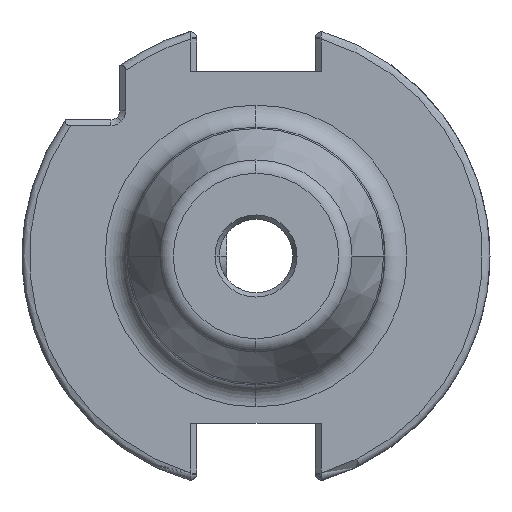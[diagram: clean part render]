
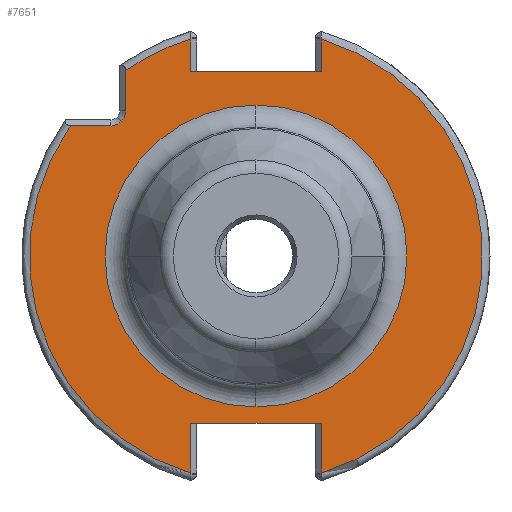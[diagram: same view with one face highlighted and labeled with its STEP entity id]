
A CAD part, front view. The second image highlights one B-rep face of the part: STEP entity #7651.
In plain terms, the highlighted planar face has unit normal (0, -1, 0).
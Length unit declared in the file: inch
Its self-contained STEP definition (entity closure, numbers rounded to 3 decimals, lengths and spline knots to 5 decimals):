
#87 = ORIENTED_EDGE ( 'NONE', *, *, #5678, .F. ) ;
#239 = ORIENTED_EDGE ( 'NONE', *, *, #2997, .F. ) ;
#252 = LINE ( 'NONE', #7582, #3780 ) ;
#269 = DIRECTION ( 'NONE',  ( 1., 0., 0. ) ) ;
#455 = CARTESIAN_POINT ( 'NONE',  ( 0.34843, -0.75197, -0.44685 ) ) ;
#734 = LINE ( 'NONE', #1566, #873 ) ;
#873 = VECTOR ( 'NONE', #3928, 39.37008 ) ;
#1041 = ORIENTED_EDGE ( 'NONE', *, *, #5106, .F. ) ;
#1070 = CARTESIAN_POINT ( 'NONE',  ( -0.77559, -0.75197, 0.69685 ) ) ;
#1078 = DIRECTION ( 'NONE',  ( 0.707, 0., -0.707 ) ) ;
#1155 = CARTESIAN_POINT ( 'NONE',  ( -0.71991, -0.75197, 0.71991 ) ) ;
#1173 = VERTEX_POINT ( 'NONE', #1241 ) ;
#1241 = CARTESIAN_POINT ( 'NONE',  ( 0.34843, -0.75197, 0.98425 ) ) ;
#1319 = EDGE_CURVE ( 'NONE', #7725, #6373, #5307, .T. ) ;
#1549 = VERTEX_POINT ( 'NONE', #6422 ) ;
#1551 = CARTESIAN_POINT ( 'NONE',  ( 0., -0.75197, -0.8937 ) ) ;
#1566 = CARTESIAN_POINT ( 'NONE',  ( -1.18652, -0.75197, 0.69685 ) ) ;
#1576 = CARTESIAN_POINT ( 'NONE',  ( -0.69685, -0.75197, 0.36417 ) ) ;
#1606 = AXIS2_PLACEMENT_3D ( 'NONE', #5902, #4931, #8072 ) ;
#1608 = VERTEX_POINT ( 'NONE', #8232 ) ;
#1662 = VERTEX_POINT ( 'NONE', #2992 ) ;
#1789 = LINE ( 'NONE', #1551, #3218 ) ;
#1871 = ORIENTED_EDGE ( 'NONE', *, *, #6231, .T. ) ;
#1909 = CARTESIAN_POINT ( 'NONE',  ( 0., -0.75197, 0. ) ) ;
#1956 = CARTESIAN_POINT ( 'NONE',  ( 0.34843, -0.75197, -1.16043 ) ) ;
#1958 = PLANE ( 'NONE',  #2195 ) ;
#2014 = EDGE_CURVE ( 'NONE', #3806, #4274, #7264, .T. ) ;
#2016 = CARTESIAN_POINT ( 'NONE',  ( -0.77559, -0.75197, 0.77559 ) ) ;
#2032 = LINE ( 'NONE', #455, #7379 ) ;
#2121 = CIRCLE ( 'NONE', #1606, 0.80709 ) ;
#2191 = AXIS2_PLACEMENT_3D ( 'NONE', #4588, #9302, #5270 ) ;
#2195 = AXIS2_PLACEMENT_3D ( 'NONE', #5213, #5322, #8476 ) ;
#2215 = VECTOR ( 'NONE', #5921, 39.37008 ) ;
#2511 = CIRCLE ( 'NONE', #2191, 1.21161 ) ;
#2529 = LINE ( 'NONE', #1576, #9480 ) ;
#2746 = CARTESIAN_POINT ( 'NONE',  ( -0.34843, -0.75197, 0.68898 ) ) ;
#2857 = FACE_BOUND ( 'NONE', #10093, .T. ) ;
#2895 = ORIENTED_EDGE ( 'NONE', *, *, #1319, .F. ) ;
#2962 = EDGE_CURVE ( 'NONE', #1173, #10059, #5581, .T. ) ;
#2992 = CARTESIAN_POINT ( 'NONE',  ( -0.34843, -0.75197, 0.98425 ) ) ;
#2997 = EDGE_CURVE ( 'NONE', #4274, #1662, #9858, .T. ) ;
#3013 = AXIS2_PLACEMENT_3D ( 'NONE', #3165, #9556, #8836 ) ;
#3165 = CARTESIAN_POINT ( 'NONE',  ( 0., -0.75197, 0. ) ) ;
#3183 = CARTESIAN_POINT ( 'NONE',  ( 0.34843, -0.75197, 1.16043 ) ) ;
#3218 = VECTOR ( 'NONE', #7082, 39.37008 ) ;
#3238 = EDGE_CURVE ( 'NONE', #5186, #4907, #2032, .T. ) ;
#3293 = CARTESIAN_POINT ( 'NONE',  ( -0.34843, -0.75197, -1.16043 ) ) ;
#3329 = EDGE_CURVE ( 'NONE', #4907, #1549, #1789, .T. ) ;
#3338 = ORIENTED_EDGE ( 'NONE', *, *, #6019, .F. ) ;
#3512 = CIRCLE ( 'NONE', #4189, 0.07874 ) ;
#3656 = DIRECTION ( 'NONE',  ( 0., 0., 1. ) ) ;
#3780 = VECTOR ( 'NONE', #6587, 39.37008 ) ;
#3802 = CARTESIAN_POINT ( 'NONE',  ( -0.77559, -0.75197, 0.77559 ) ) ;
#3806 = VERTEX_POINT ( 'NONE', #5295 ) ;
#3908 = DIRECTION ( 'NONE',  ( 0., 1., 0. ) ) ;
#3928 = DIRECTION ( 'NONE',  ( 1., 0., 0. ) ) ;
#4189 = AXIS2_PLACEMENT_3D ( 'NONE', #2016, #9225, #1078 ) ;
#4274 = VERTEX_POINT ( 'NONE', #7829 ) ;
#4387 = CARTESIAN_POINT ( 'NONE',  ( 0.34843, -0.75197, -0.8937 ) ) ;
#4575 = VECTOR ( 'NONE', #5297, 39.37008 ) ;
#4588 = CARTESIAN_POINT ( 'NONE',  ( 0., -0.75197, 0. ) ) ;
#4800 = CARTESIAN_POINT ( 'NONE',  ( 0., -0.75197, 0. ) ) ;
#4907 = VERTEX_POINT ( 'NONE', #4387 ) ;
#4931 = DIRECTION ( 'NONE',  ( 0., -1., 0. ) ) ;
#5022 = LINE ( 'NONE', #8168, #4575 ) ;
#5106 = EDGE_CURVE ( 'NONE', #10059, #5186, #8640, .T. ) ;
#5108 = DIRECTION ( 'NONE',  ( 0., 1., 0. ) ) ;
#5160 = VERTEX_POINT ( 'NONE', #1070 ) ;
#5186 = VERTEX_POINT ( 'NONE', #1956 ) ;
#5213 = CARTESIAN_POINT ( 'NONE',  ( -1.25098, -0.75197, 0. ) ) ;
#5270 = DIRECTION ( 'NONE',  ( 1., 0., 0. ) ) ;
#5295 = CARTESIAN_POINT ( 'NONE',  ( -0.69685, -0.75197, 0.99117 ) ) ;
#5297 = DIRECTION ( 'NONE',  ( 0., 0., -1. ) ) ;
#5307 = CIRCLE ( 'NONE', #9751, 0.07874 ) ;
#5322 = DIRECTION ( 'NONE',  ( 0., -1., 0. ) ) ;
#5336 = AXIS2_PLACEMENT_3D ( 'NONE', #4800, #3908, #7076 ) ;
#5475 = ORIENTED_EDGE ( 'NONE', *, *, #3238, .F. ) ;
#5575 = CARTESIAN_POINT ( 'NONE',  ( 0., -0.75197, 0.80709 ) ) ;
#5581 = LINE ( 'NONE', #9800, #7044 ) ;
#5626 = ORIENTED_EDGE ( 'NONE', *, *, #8402, .F. ) ;
#5678 = EDGE_CURVE ( 'NONE', #5160, #7725, #3512, .T. ) ;
#5819 = EDGE_CURVE ( 'NONE', #8808, #7983, #6193, .T. ) ;
#5902 = CARTESIAN_POINT ( 'NONE',  ( 0., -0.75197, 0. ) ) ;
#5921 = DIRECTION ( 'NONE',  ( 0., 0., -1. ) ) ;
#6019 = EDGE_CURVE ( 'NONE', #6321, #1608, #2511, .T. ) ;
#6090 = EDGE_CURVE ( 'NONE', #6373, #3806, #2529, .T. ) ;
#6193 = CIRCLE ( 'NONE', #3013, 0.80709 ) ;
#6231 = EDGE_CURVE ( 'NONE', #1173, #1662, #252, .T. ) ;
#6321 = VERTEX_POINT ( 'NONE', #3293 ) ;
#6354 = DIRECTION ( 'NONE',  ( 0.707, 0., -0.707 ) ) ;
#6373 = VERTEX_POINT ( 'NONE', #6382 ) ;
#6382 = CARTESIAN_POINT ( 'NONE',  ( -0.69685, -0.75197, 0.77559 ) ) ;
#6422 = CARTESIAN_POINT ( 'NONE',  ( -0.34843, -0.75197, -0.8937 ) ) ;
#6428 = DIRECTION ( 'NONE',  ( 0., 0., 1. ) ) ;
#6562 = EDGE_CURVE ( 'NONE', #7983, #8808, #2121, .T. ) ;
#6587 = DIRECTION ( 'NONE',  ( -1., 0., 0. ) ) ;
#6735 = ORIENTED_EDGE ( 'NONE', *, *, #3329, .F. ) ;
#6803 = FACE_OUTER_BOUND ( 'NONE', #9715, .T. ) ;
#7044 = VECTOR ( 'NONE', #9755, 39.37008 ) ;
#7076 = DIRECTION ( 'NONE',  ( 1., 0., 0. ) ) ;
#7082 = DIRECTION ( 'NONE',  ( -1., 0., 0. ) ) ;
#7177 = ORIENTED_EDGE ( 'NONE', *, *, #6090, .F. ) ;
#7264 = CIRCLE ( 'NONE', #7433, 1.21161 ) ;
#7379 = VECTOR ( 'NONE', #3656, 39.37008 ) ;
#7433 = AXIS2_PLACEMENT_3D ( 'NONE', #1909, #5108, #269 ) ;
#7582 = CARTESIAN_POINT ( 'NONE',  ( -0.78396, -0.75197, 0.98425 ) ) ;
#7651 = ADVANCED_FACE ( 'NONE', ( #2857, #6803 ), #1958, .T. ) ;
#7725 = VERTEX_POINT ( 'NONE', #1155 ) ;
#7829 = CARTESIAN_POINT ( 'NONE',  ( -0.34843, -0.75197, 1.16043 ) ) ;
#7905 = DIRECTION ( 'NONE',  ( 0., -1., 0. ) ) ;
#7915 = ORIENTED_EDGE ( 'NONE', *, *, #8228, .F. ) ;
#7983 = VERTEX_POINT ( 'NONE', #9196 ) ;
#8072 = DIRECTION ( 'NONE',  ( -1., 0., 0. ) ) ;
#8168 = CARTESIAN_POINT ( 'NONE',  ( -0.34843, -0.75197, -0.44685 ) ) ;
#8228 = EDGE_CURVE ( 'NONE', #1608, #5160, #734, .T. ) ;
#8232 = CARTESIAN_POINT ( 'NONE',  ( -0.99117, -0.75197, 0.69685 ) ) ;
#8402 = EDGE_CURVE ( 'NONE', #1549, #6321, #5022, .T. ) ;
#8476 = DIRECTION ( 'NONE',  ( 0., 0., -1. ) ) ;
#8640 = CIRCLE ( 'NONE', #5336, 1.21161 ) ;
#8808 = VERTEX_POINT ( 'NONE', #5575 ) ;
#8836 = DIRECTION ( 'NONE',  ( -1., 0., 0. ) ) ;
#8902 = ORIENTED_EDGE ( 'NONE', *, *, #2962, .F. ) ;
#9189 = ORIENTED_EDGE ( 'NONE', *, *, #5819, .F. ) ;
#9196 = CARTESIAN_POINT ( 'NONE',  ( 0., -0.75197, -0.80709 ) ) ;
#9225 = DIRECTION ( 'NONE',  ( 0., -1., 0. ) ) ;
#9302 = DIRECTION ( 'NONE',  ( 0., 1., 0. ) ) ;
#9480 = VECTOR ( 'NONE', #6428, 39.37008 ) ;
#9496 = ORIENTED_EDGE ( 'NONE', *, *, #6562, .F. ) ;
#9556 = DIRECTION ( 'NONE',  ( 0., -1., 0. ) ) ;
#9715 = EDGE_LOOP ( 'NONE', ( #6735, #5475, #1041, #8902, #1871, #239, #10214, #7177, #2895, #87, #7915, #3338, #5626 ) ) ;
#9751 = AXIS2_PLACEMENT_3D ( 'NONE', #3802, #7905, #6354 ) ;
#9755 = DIRECTION ( 'NONE',  ( 0., 0., 1. ) ) ;
#9800 = CARTESIAN_POINT ( 'NONE',  ( 0.34843, -0.75197, 0.49213 ) ) ;
#9858 = LINE ( 'NONE', #2746, #2215 ) ;
#10059 = VERTEX_POINT ( 'NONE', #3183 ) ;
#10093 = EDGE_LOOP ( 'NONE', ( #9189, #9496 ) ) ;
#10214 = ORIENTED_EDGE ( 'NONE', *, *, #2014, .F. ) ;
